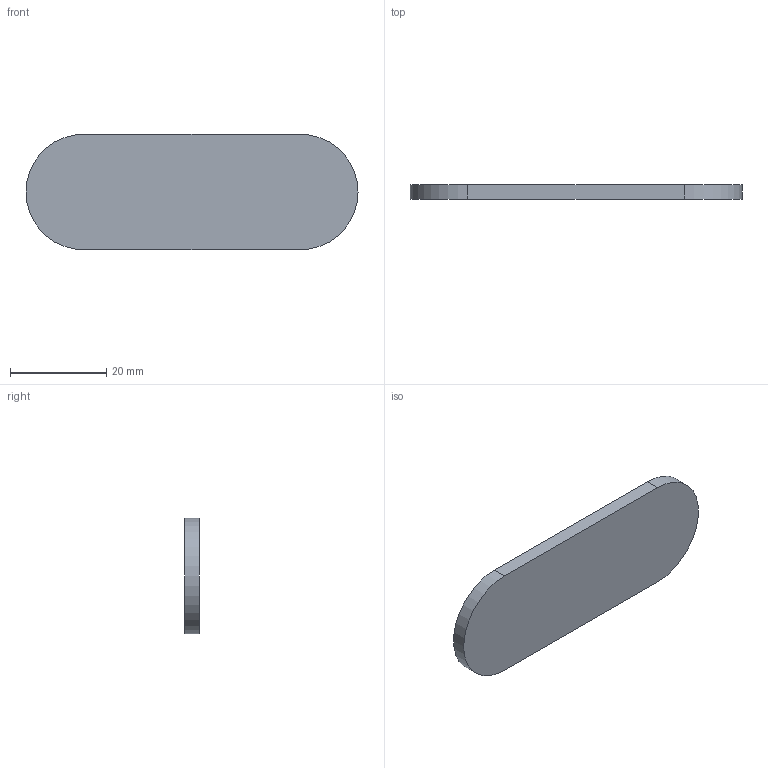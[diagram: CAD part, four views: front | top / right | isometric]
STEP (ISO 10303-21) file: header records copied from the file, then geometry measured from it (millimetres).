
FILE_DESCRIPTION(('Open CASCADE Model'),'2;1');
FILE_NAME('Open CASCADE Shape Model','2026-10-10T15:34:58',('Author'),( 'Open CASCADE'),'Open CASCADE STEP processor 7.9','Open CASCADE 7.9' ,'Unknown');
FILE_SCHEMA(('AUTOMOTIVE_DESIGN { 1 0 10303 214 1 1 1 1 }'));
Length unit declared in the file: millimetre
Products named in the file (1): Open CASCADE STEP translator 7.9 33
Bounding box: 69 x 3 x 24 mm (x, y, z)
Volume: 4597.2 mm3; surface area: 3561 mm2
Topology: 1 solids, 1 shells, 6 faces, 12 edges, 8 vertices
Faces by surface type: plane 4, cylinder 2
Entity records: 326 total; most frequent: DIRECTION 54, CARTESIAN_POINT 51, LINE 28, VECTOR 28, ORIENTED_EDGE 24, PCURVE 24, DEFINITIONAL_REPRESENTATION 24, EDGE_CURVE 12
